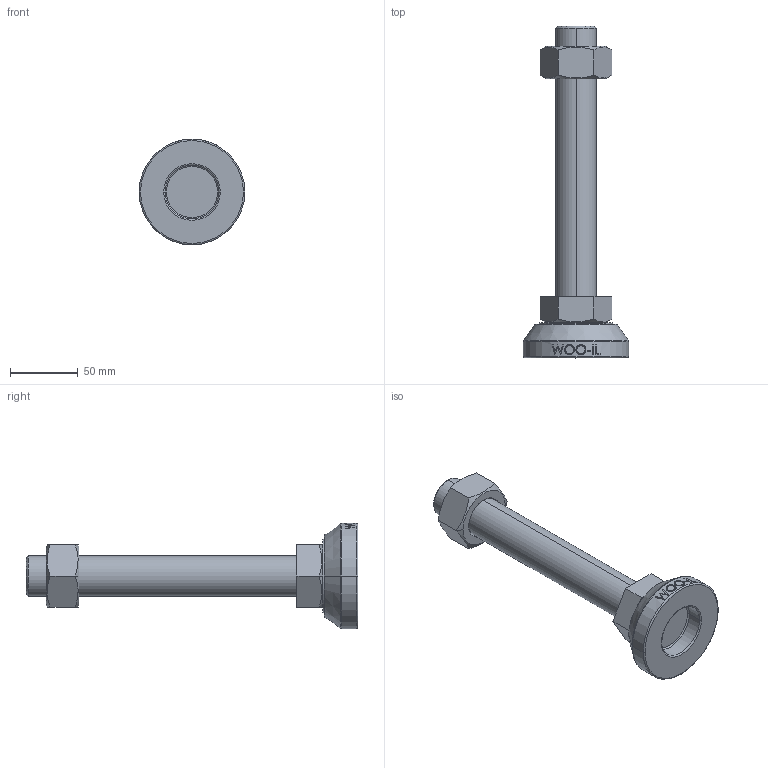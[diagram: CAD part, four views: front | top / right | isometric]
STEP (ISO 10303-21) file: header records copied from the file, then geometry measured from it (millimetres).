
FILE_DESCRIPTION (( 'STEP AP214' ), '1' );
FILE_NAME ('MF78-M30-200.step', '2021-02-03T08:22:59', ( '' ), ( '' ), 'SwSTEP 2.0', 'SolidWorks 2019', '' );
FILE_SCHEMA (( 'AUTOMOTIVE_DESIGN' ));
Length unit declared in the file: millimetre
Products named in the file (2): MF78-M30-200
Bounding box: 78 x 245 x 78 mm (x, y, z)
Volume: 295701.7 mm3; surface area: 48773.1 mm2
Topology: 3 solids, 3 shells, 106 faces, 243 edges, 154 vertices
Faces by surface type: plane 48, cylinder 18, bspline 16, cone 14, torus 10
Entity records: 4556 total; most frequent: CARTESIAN_POINT 2213, ORIENTED_EDGE 486, DIRECTION 439, EDGE_CURVE 243, AXIS2_PLACEMENT_3D 170, VERTEX_POINT 154, EDGE_LOOP 119, FACE_OUTER_BOUND 106
